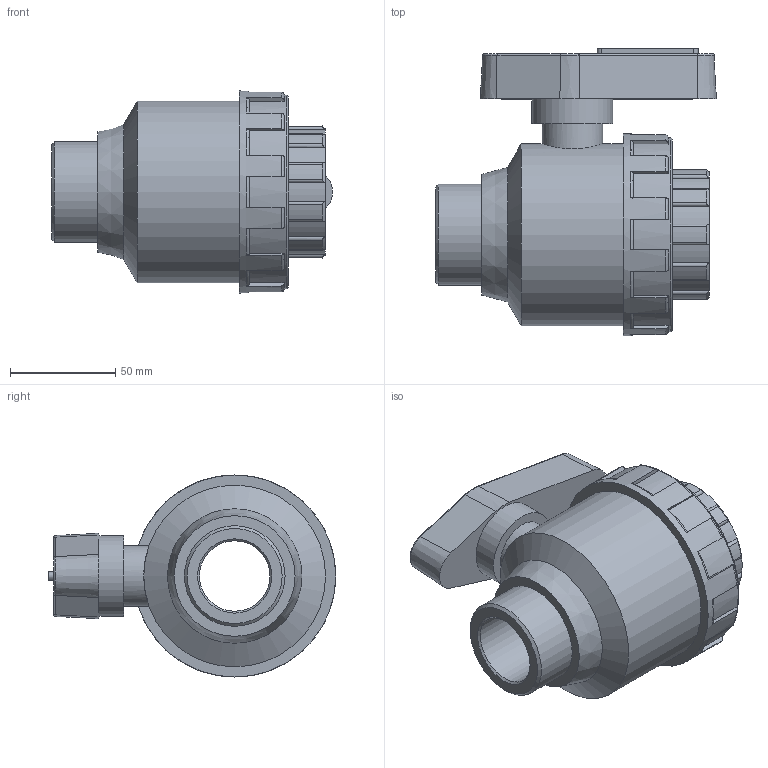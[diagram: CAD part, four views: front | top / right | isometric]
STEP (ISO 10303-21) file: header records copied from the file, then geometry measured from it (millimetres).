
FILE_DESCRIPTION(/* description */ ('PLASSON ONE NUT VALVE MALE-FEMALE ADAPTOR 1.1/2" PVC'),/* implementation_level */ '2;1');
FILE_NAME(/* name */ 'C:\Dropbox\KIMPROJECTS-Inventor\99-16-3568-Processing\PVC Catalog 2017\113610\11361015.ipt.stp',/* time_stamp */ '2017-12-07T16:12:25+02:00',/* author */ ('KIM'),/* organization */ (''),/* preprocessor_version */ 'ST-DEVELOPER v15.6',/* originating_system */ 'Autodesk Inventor 2015',/* authorisation */ '');
FILE_SCHEMA (('AUTOMOTIVE_DESIGN { 1 0 10303 214 3 1 1 }'));
Length unit declared in the file: millimetre
Products named in the file (1): 11361015
Bounding box: 133.49 x 136.58 x 96 mm (x, y, z)
Volume: 548021.9 mm3; surface area: 70084.3 mm2
Topology: 1 solids, 1 shells, 168 faces, 442 edges, 284 vertices
Faces by surface type: plane 65, cylinder 55, torus 29, cone 19
Full cylindrical faces by diameter (mm): 28.8 x1, 33.462 x1, 35.876 x1, 38.4 x1, 44.845 x1, 47.803 x1, 86.4 x1, 92.16 x1, 96 x1
Entity records: 5674 total; most frequent: CARTESIAN_POINT 1568, DIRECTION 876, ORIENTED_EDGE 840, EDGE_CURVE 420, AXIS2_PLACEMENT_3D 356, VERTEX_POINT 278, EDGE_LOOP 194, CIRCLE 187
